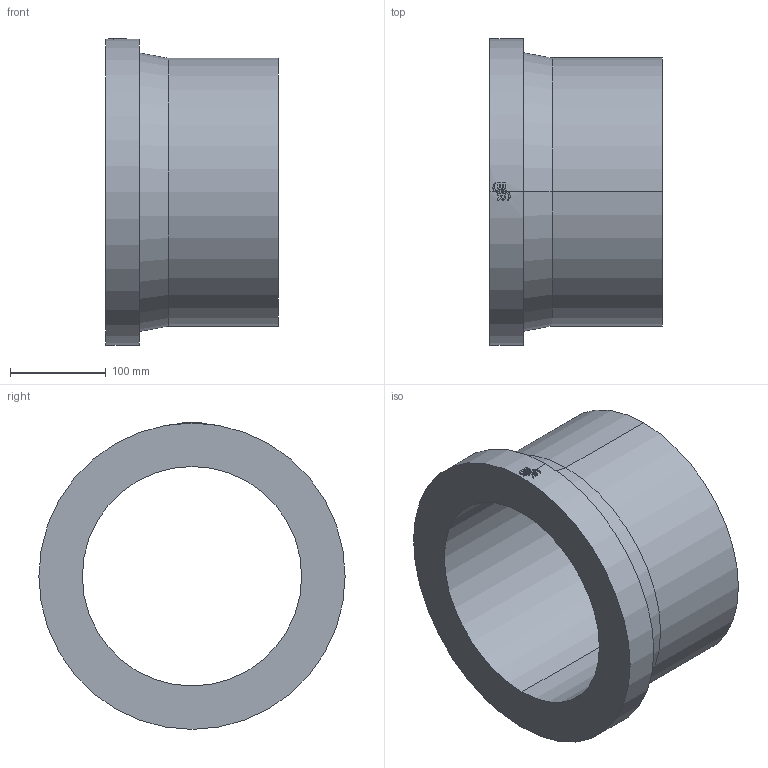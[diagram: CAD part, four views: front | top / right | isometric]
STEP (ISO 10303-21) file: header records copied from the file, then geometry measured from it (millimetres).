
FILE_DESCRIPTION (( 'STEP AP214' ), '1' );
FILE_NAME ('233522F015.STEP', '2018-07-20T11:48:51', ( '' ), ( '' ), 'SwSTEP 2.0', 'SolidWorks 2017', '' );
FILE_SCHEMA (( 'AUTOMOTIVE_DESIGN' ));
Length unit declared in the file: millimetre
Products named in the file (1): 233522F015
Bounding box: 180 x 320 x 320.5 mm (x, y, z)
Volume: 4390226.7 mm3; surface area: 366788.3 mm2
Topology: 1 solids, 1 shells, 60 faces, 154 edges, 102 vertices
Faces by surface type: cylinder 29, plane 29, cone 2
Entity records: 2924 total; most frequent: CARTESIAN_POINT 807, ORIENTED_EDGE 308, DIRECTION 282, EDGE_CURVE 154, AXIS2_PLACEMENT_3D 107, VERTEX_POINT 102, EDGE_LOOP 68, VECTOR 68
